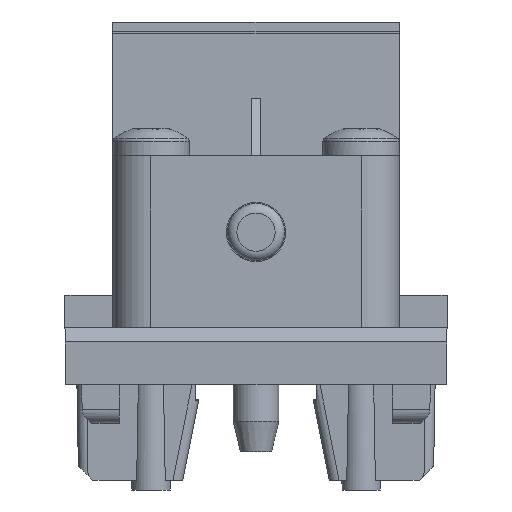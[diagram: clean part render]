
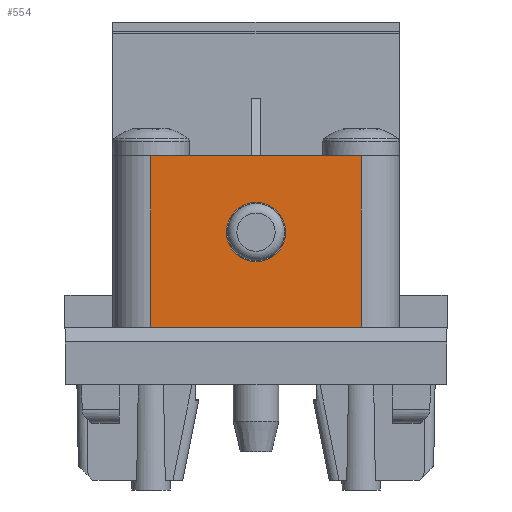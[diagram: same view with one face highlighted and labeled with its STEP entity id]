
A CAD part, left-side view. The second image highlights one B-rep face of the part: STEP entity #554.
In plain terms, the highlighted planar face has unit normal (-1, 0, 0).
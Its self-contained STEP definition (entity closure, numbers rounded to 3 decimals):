
#554=ADVANCED_FACE('',(#7390,#7392),#7394,.T.);
#7390=FACE_BOUND('',#7391,.T.);
#7391=EDGE_LOOP('',(#13688,#13689,#13690,#13691));
#7392=FACE_BOUND('',#7393,.T.);
#7393=EDGE_LOOP('',(#13692));
#7394=PLANE('',#7395);
#7395=AXIS2_PLACEMENT_3D('',#7396,#7397,#7398);
#7396=CARTESIAN_POINT('',(0.,26.,0.));
#7397=DIRECTION('',(-1.,0.,0.));
#7398=DIRECTION('',(0.,-1.,0.));
#13688=ORIENTED_EDGE('',*,*,#17711,.F.);
#13689=ORIENTED_EDGE('',*,*,#17712,.F.);
#13690=ORIENTED_EDGE('',*,*,#17477,.F.);
#13691=ORIENTED_EDGE('',*,*,#17710,.T.);
#13692=ORIENTED_EDGE('',*,*,#17713,.T.);
#17477=EDGE_CURVE('',#19585,#19587,#19588,.T.);
#17710=EDGE_CURVE('',#19585,#20019,#20021,.T.);
#17711=EDGE_CURVE('',#20022,#20019,#20023,.F.);
#17712=EDGE_CURVE('',#19587,#20022,#20024,.T.);
#17713=EDGE_CURVE('',#20025,#20025,#20026,.T.);
#19585=VERTEX_POINT('',#23175);
#19587=VERTEX_POINT('',#23180);
#19588=LINE('',#23181,#23182);
#20019=VERTEX_POINT('',#24155);
#20021=LINE('',#24160,#24161);
#20022=VERTEX_POINT('',#24163);
#20023=LINE('',#24164,#24165);
#20024=LINE('',#24167,#24168);
#20025=VERTEX_POINT('',#24170);
#20026=CIRCLE('',#24171,3.1);
#23175=CARTESIAN_POINT('',(0.,26.,8.));
#23180=CARTESIAN_POINT('',(0.,4.,8.));
#23181=CARTESIAN_POINT('',(0.,26.,8.));
#23182=VECTOR('',#23183,1.);
#23183=DIRECTION('',(0.,-1.,0.));
#24155=CARTESIAN_POINT('',(0.,26.,-10.));
#24160=CARTESIAN_POINT('',(0.,26.,8.));
#24161=VECTOR('',#24162,1.);
#24162=DIRECTION('',(0.,0.,-1.));
#24163=CARTESIAN_POINT('',(0.,4.,-10.));
#24164=CARTESIAN_POINT('',(0.,26.,-10.));
#24165=VECTOR('',#24166,1.);
#24166=DIRECTION('',(0.,-1.,0.));
#24167=CARTESIAN_POINT('',(0.,4.,8.));
#24168=VECTOR('',#24169,1.);
#24169=DIRECTION('',(0.,0.,-1.));
#24170=CARTESIAN_POINT('',(0.,11.9,0.));
#24171=AXIS2_PLACEMENT_3D('',#24172,#24173,#24174);
#24172=CARTESIAN_POINT('',(0.,15.,0.));
#24173=DIRECTION('',(1.,-0.,-0.));
#24174=DIRECTION('',(0.,-1.,0.));
